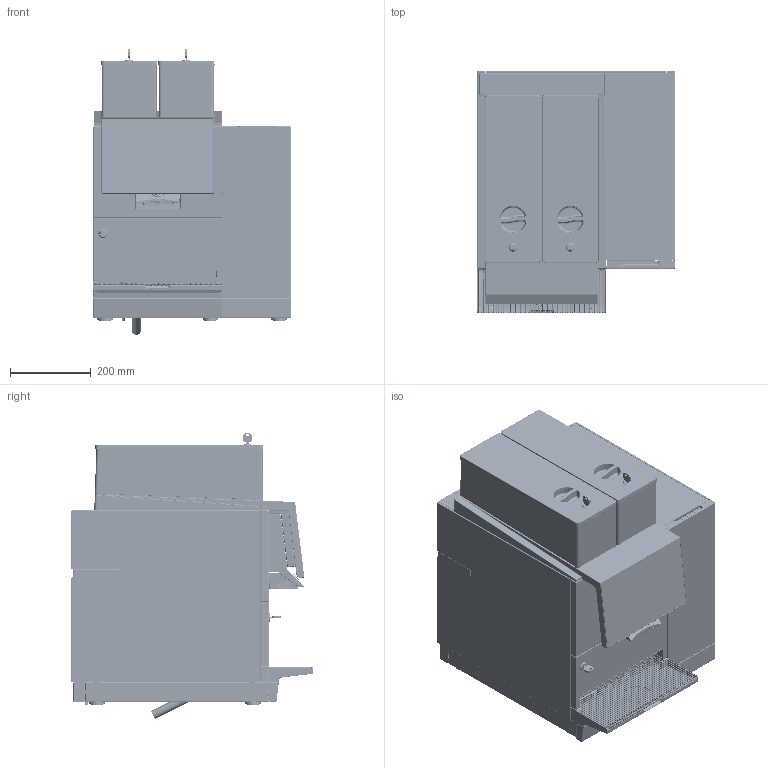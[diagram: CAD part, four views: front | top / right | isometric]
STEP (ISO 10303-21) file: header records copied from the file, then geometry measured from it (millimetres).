
FILE_DESCRIPTION(/* description */ ('Unknown'),/* implementation_level */ '2;1');
FILE_NAME(/* name */ 'BW4_CTM_F_134126_mitSockel',/* time_stamp */ '2019-08-30T15:41:12+02:00',/* author */ ('Unknown'),/* organization */ ('Unknown'),/* preprocessor_version */ 'ST-DEVELOPER v16.7',/* originating_system */ 'DEX',/* authorisation */ $);
FILE_SCHEMA (('AUTOMOTIVE_DESIGN {1 0 10303 214 3 1 1}'));
Products named in the file (20): BW4_CTM_F_134126_mitSockel; BW4_CTM_F_134126_Heer_0; 131.958_Sockel_kpl._490_00260378_oa_0; 132.034_Seitenblech_links_zu_00261243_oa_1; 132.032_Seitenblech_links_zu_00261238; 131.966_Frontblech_zu_Sockel_00261714_oa_2; 131.963_Frontblech_zu_Sockel_00261710; 131.870_Frontblech_zu_Sockel_00261699; 132.047_Seitenblech_rechts_k_00261295_oa_3; 132.046_Seitenblech_rechts___00261293; 132.041_Rückwand_aussen_zu_S_00261972_oa_4; 132.029_Rückwand_zu_Sockel_2_00261967; 131.959_Rückwand_zu_Sockel_1_00261960; 131.960_Verbindungsblech_00261190; 129.290_Anschlussleitung_5x2_00240828; 131.793_Anschlussleitung_5x2_00258855; 714178_1254-SR-8N-1; 131.751_Anschlussleitung_5x2_00258648; 128.432_Träger_Anschlusskabe_00243127; 715357m04x010
Assembly tree (19 placements, depth 4):
  BW4_CTM_F_134126_mitSockel
    BW4_CTM_F_134126_Heer_0
    131.958_Sockel_kpl._490_00260378_oa_0
      132.034_Seitenblech_links_zu_00261243_oa_1
        132.032_Seitenblech_links_zu_00261238
      131.966_Frontblech_zu_Sockel_00261714_oa_2
        131.963_Frontblech_zu_Sockel_00261710
        131.870_Frontblech_zu_Sockel_00261699
      132.047_Seitenblech_rechts_k_00261295_oa_3
        132.046_Seitenblech_rechts___00261293
      132.041_Rückwand_aussen_zu_S_00261972_oa_4
        132.029_Rückwand_zu_Sockel_2_00261967
        131.959_Rückwand_zu_Sockel_1_00261960
        131.960_Verbindungsblech_00261190
    129.290_Anschlussleitung_5x2_00240828
      131.793_Anschlussleitung_5x2_00258855
        714178_1254-SR-8N-1
        131.751_Anschlussleitung_5x2_00258648
      128.432_Träger_Anschlusskabe_00243127
      715357m04x010
Bounding box: 491.32 x 599.9 x 708.49 mm (x, y, z)
Volume: 198994 mm3; surface area: 4542402.3 mm2
Topology: 13 solids, 610 shells, 4324 faces, 23426 edges, 19230 vertices
Faces by surface type: plane 1884, cylinder 1598, torus 332, bspline 248, cone 211, sphere 51
Full cylindrical faces by diameter (mm): 2 x10, 2.5 x127, 2.6 x1, 3 x2, 3.2 x14, 4 x11, 4.15 x2, 4.2 x22, 4.5 x3, 4.8 x1, 5.2 x14, 5.4 x4, 5.65 x2, 5.705 x1, 6 x2, 6.2 x2, 6.7 x1, 7.85 x2, 9.4 x1, 9.85 x1, 10 x1, 11 x1, 11.4 x4, 12.6 x1, 13 x1, 13.4 x1, 13.5 x1, 14 x4, 14.5 x1, 16 x2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
Entity records: 257021 total; most frequent: CARTESIAN_POINT 75724, DIRECTION 35033, ORIENTED_EDGE 29339, EDGE_CURVE 22447, VERTEX_POINT 18999, LINE 12163, VECTOR 12163, AXIS2_PLACEMENT_3D 11435
